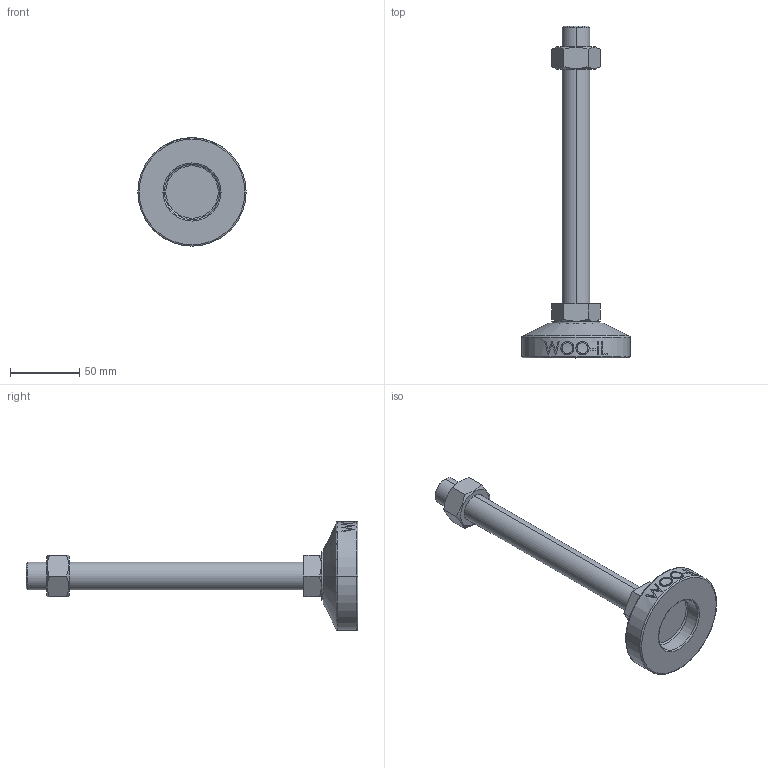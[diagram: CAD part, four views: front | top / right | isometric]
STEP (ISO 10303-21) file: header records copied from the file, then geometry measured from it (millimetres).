
FILE_DESCRIPTION (( 'STEP AP214' ), '1' );
FILE_NAME ('MFZ78-M20-200.step', '2021-01-15T07:09:00', ( '' ), ( '' ), 'SwSTEP 2.0', 'SolidWorks 2019', '' );
FILE_SCHEMA (( 'AUTOMOTIVE_DESIGN' ));
Length unit declared in the file: millimetre
Products named in the file (2): MFZ78-M20-200
Bounding box: 78 x 239 x 78 mm (x, y, z)
Volume: 167263.1 mm3; surface area: 33901.7 mm2
Topology: 3 solids, 3 shells, 106 faces, 247 edges, 158 vertices
Faces by surface type: plane 48, cylinder 18, bspline 16, cone 14, torus 10
Entity records: 4628 total; most frequent: CARTESIAN_POINT 2265, ORIENTED_EDGE 494, DIRECTION 439, EDGE_CURVE 247, AXIS2_PLACEMENT_3D 170, VERTEX_POINT 158, EDGE_LOOP 119, FACE_OUTER_BOUND 106
